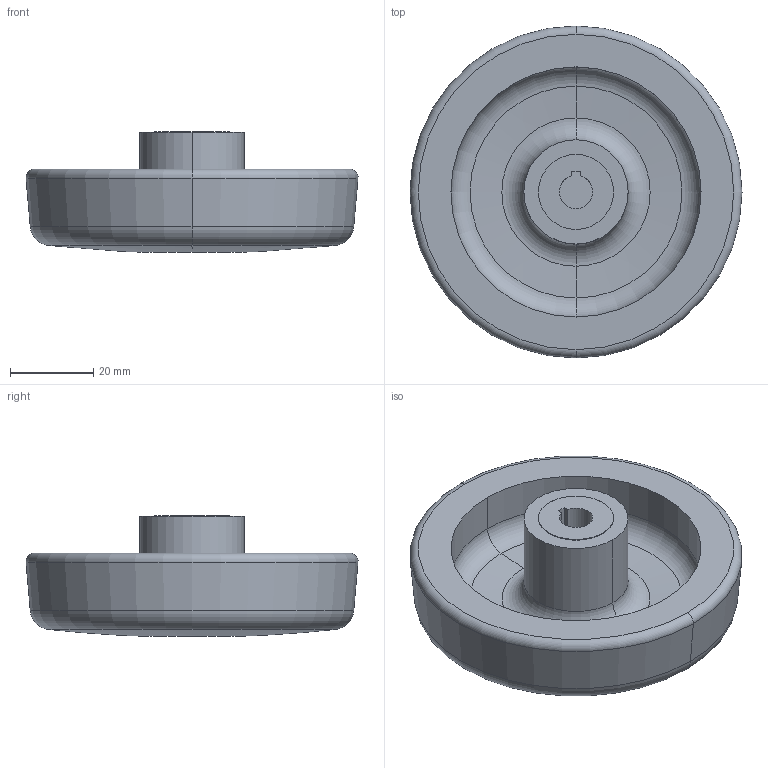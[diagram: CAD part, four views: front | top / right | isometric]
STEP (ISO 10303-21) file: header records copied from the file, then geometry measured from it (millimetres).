
FILE_DESCRIPTION (( 'STEP AP214' ), '1' );
FILE_NAME ('521-80-K8-A.step', '2020-05-29T13:28:00', ( '' ), ( '' ), 'SwSTEP 2.0', 'SolidWorks 2019', '' );
FILE_SCHEMA (( 'AUTOMOTIVE_DESIGN' ));
Length unit declared in the file: millimetre
Products named in the file (1): 521-80-K8-A
Bounding box: 79.62 x 79.62 x 29 mm (x, y, z)
Volume: 59467.6 mm3; surface area: 18929.1 mm2
Topology: 1 solids, 1 shells, 40 faces, 81 edges, 48 vertices
Faces by surface type: cylinder 14, torus 10, plane 10, sphere 4, cone 2
Entity records: 1102 total; most frequent: DIRECTION 219, CARTESIAN_POINT 170, ORIENTED_EDGE 162, AXIS2_PLACEMENT_3D 97, EDGE_CURVE 81, CIRCLE 56, VERTEX_POINT 48, EDGE_LOOP 45
